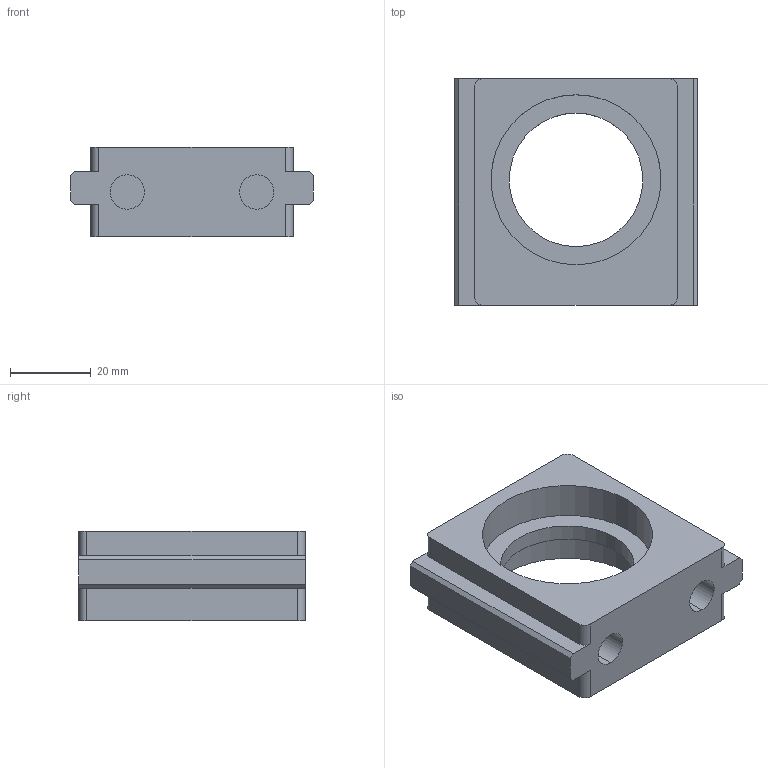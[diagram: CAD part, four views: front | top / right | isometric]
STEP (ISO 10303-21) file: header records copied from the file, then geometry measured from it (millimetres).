
FILE_DESCRIPTION (( 'STEP AP203' ), '1' );
FILE_NAME ('CY-DD-B010.step', '2023-12-27T04:44:23', ( '1' ), ( '' ), 'SwSTEP 2.0', 'SolidWorks 2022', '' );
FILE_SCHEMA (( 'CONFIG_CONTROL_DESIGN' ));
Length unit declared in the file: millimetre
Products named in the file (1): CY-DD-B010
Bounding box: 60 x 56 x 22 mm (x, y, z)
Volume: 36425.9 mm3; surface area: 12973.9 mm2
Topology: 1 solids, 1 shells, 40 faces, 102 edges, 68 vertices
Faces by surface type: plane 22, cylinder 18
Entity records: 1303 total; most frequent: DIRECTION 220, CARTESIAN_POINT 211, ORIENTED_EDGE 204, EDGE_CURVE 102, AXIS2_PLACEMENT_3D 77, VERTEX_POINT 68, LINE 66, VECTOR 66
